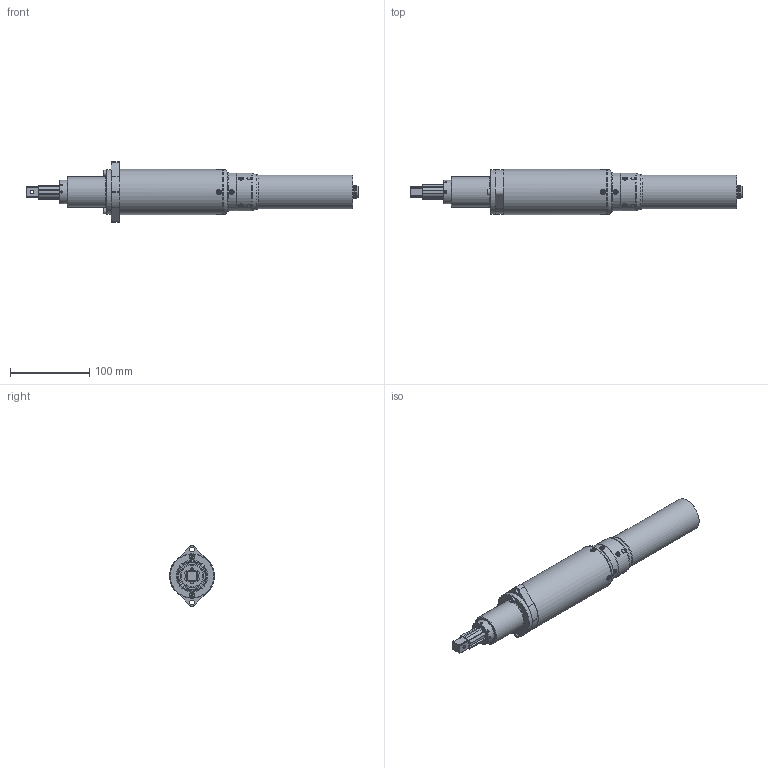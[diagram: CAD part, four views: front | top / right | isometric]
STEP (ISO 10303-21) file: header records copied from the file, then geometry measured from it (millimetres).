
FILE_DESCRIPTION (( 'STEP AP214' ), '1' );
FILE_NAME ('135150-KDS-PL50CA-FN.STEP', '2023-03-03T10:42:52', ( '' ), ( '' ), 'SwSTEP 2.0', 'SolidWorks 2022', '' );
FILE_SCHEMA (( 'AUTOMOTIVE_DESIGN' ));
Length unit declared in the file: millimetre
Products named in the file (1): 135150-KDS-PL50CA-FN
Bounding box: 419.9 x 57 x 77 mm (x, y, z)
Surface area: 83553.9 mm2 (no closed solid volume)
Topology: 0 solids, 37 shells, 391 faces, 1236 edges, 851 vertices
Faces by surface type: cylinder 205, plane 115, torus 34, cone 33, bspline 4
Full cylindrical faces by diameter (mm): 1 x10, 2 x4, 3 x1, 4 x1, 5.004 x4, 5.1 x4, 5.5 x12, 6.2 x2, 7 x2, 11.8 x1, 12 x1, 14.85 x2, 16 x1, 16.2 x1, 27.75 x1, 30 x1, 34 x1, 38 x1, 43 x1, 48 x2, 56 x1, 57 x2
Entity records: 19572 total; most frequent: CARTESIAN_POINT 4678, DIRECTION 2382, ORIENTED_EDGE 1740, EDGE_CURVE 1100, AXIS2_PLACEMENT_3D 978, VERTEX_POINT 826, EDGE_LOOP 604, CIRCLE 590
